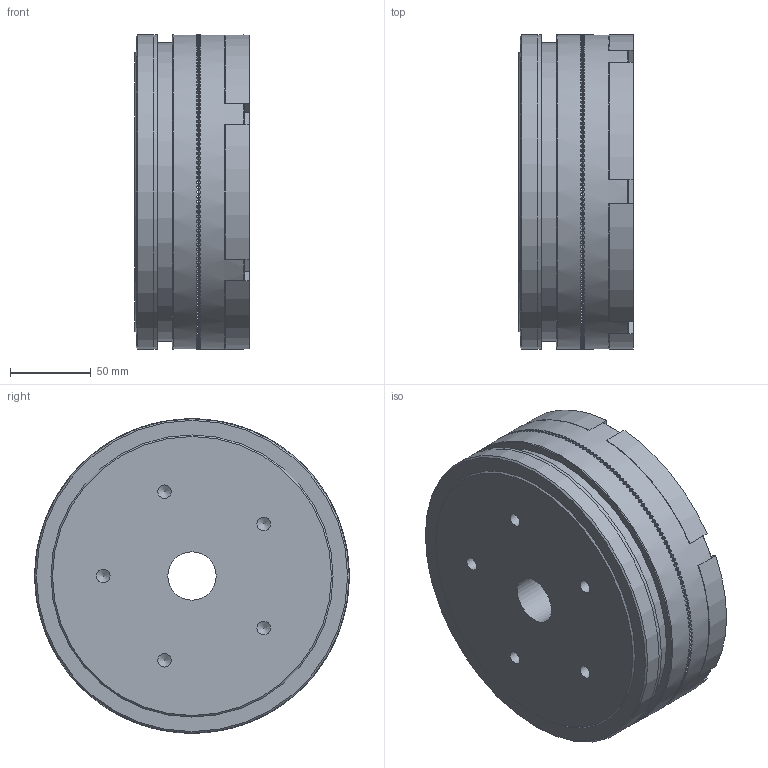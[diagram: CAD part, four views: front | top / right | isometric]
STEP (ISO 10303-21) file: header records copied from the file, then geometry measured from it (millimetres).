
FILE_DESCRIPTION(/* description */ (''),/* implementation_level */ '2;1');
FILE_NAME(/* name */ 'X:\INVENTOR\DISEGNI\07_Innesti_Elettmag_a_Dentini\07_01 EC_Z\07_01_195_01 EC195_Z\07_01_195_01 EC195_Z@STEP.stp',/* time_stamp */ '2023-02-07T08:53:32+01:00',/* author */ ('alessio'),/* organization */ (''),/* preprocessor_version */ 'ST-DEVELOPER v18.1',/* originating_system */ 'Autodesk Inventor 2021',/* authorisation */ '');
FILE_SCHEMA (('AUTOMOTIVE_DESIGN { 1 0 10303 214 3 1 1 }'));
Products named in the file (1): 07_01_195_01 EC195_Z
Bounding box: 71.2 x 195 x 195 mm (x, y, z)
Volume: 1774530.7 mm3; surface area: 196048.5 mm2
Topology: 2 solids, 6 shells, 1932 faces, 5670 edges, 3757 vertices
Faces by surface type: plane 1788, cylinder 81, bspline 39, cone 23, torus 1
Full cylindrical faces by diameter (mm): 4 x3, 4.917 x6, 7.9 x3, 8.376 x5, 8.5 x3, 12 x3, 13 x3, 30 x1, 89 x2, 90 x1, 127 x1, 155 x1, 178 x1, 181 x1, 182.5 x2, 185 x1, 195 x4
Entity records: 71650 total; most frequent: CARTESIAN_POINT 15111, DIRECTION 12877, ORIENTED_EDGE 11324, EDGE_CURVE 5662, AXIS2_PLACEMENT_3D 5410, VERTEX_POINT 3756, ELLIPSE 2429, LINE 2057
